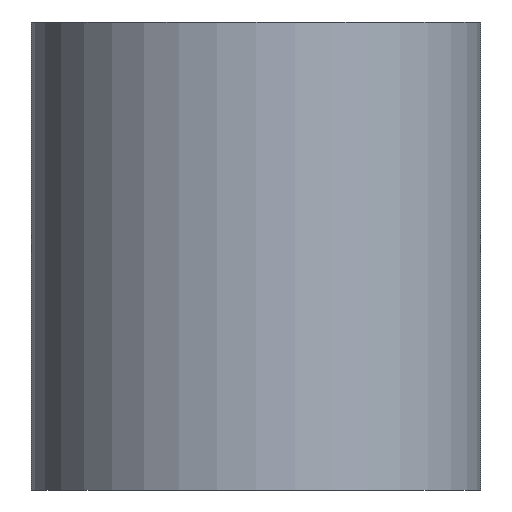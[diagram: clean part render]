
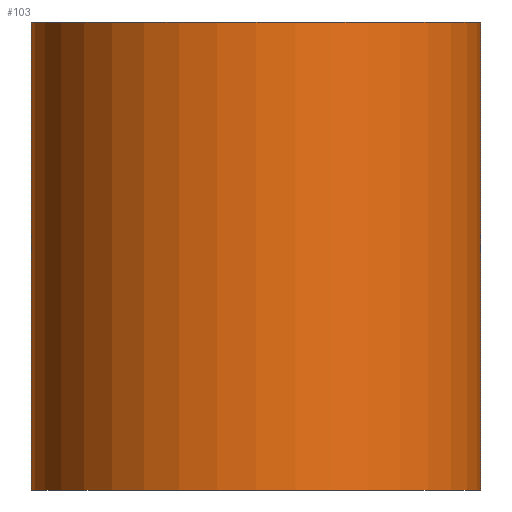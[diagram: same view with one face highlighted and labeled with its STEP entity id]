
A CAD part, left-side view. The second image highlights one B-rep face of the part: STEP entity #103.
In plain terms, the highlighted cylindrical face has radius 12 mm (diameter 24 mm), a partial arc.
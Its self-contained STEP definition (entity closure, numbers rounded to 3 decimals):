
#103=ADVANCED_FACE('',(#113),#109,.T.);
#109=CYLINDRICAL_SURFACE('',#188,12.);
#113=FACE_OUTER_BOUND('',#117,.T.);
#117=EDGE_LOOP('',(#133,#134,#135,#136));
#125=CIRCLE('',#186,12.);
#126=CIRCLE('',#187,12.);
#133=ORIENTED_EDGE('',*,*,#165,.T.);
#134=ORIENTED_EDGE('',*,*,#166,.F.);
#135=ORIENTED_EDGE('',*,*,#167,.F.);
#136=ORIENTED_EDGE('',*,*,#168,.T.);
#157=VERTEX_POINT('',#236);
#158=VERTEX_POINT('',#237);
#159=VERTEX_POINT('',#239);
#160=VERTEX_POINT('',#241);
#165=EDGE_CURVE('',#157,#158,#177,.T.);
#166=EDGE_CURVE('',#159,#158,#125,.T.);
#167=EDGE_CURVE('',#160,#159,#178,.T.);
#168=EDGE_CURVE('',#160,#157,#126,.T.);
#177=LINE('',#235,#181);
#178=LINE('',#240,#182);
#181=VECTOR('',#202,1.);
#182=VECTOR('',#205,1.);
#186=AXIS2_PLACEMENT_3D('',#238,#203,#204);
#187=AXIS2_PLACEMENT_3D('',#242,#206,#207);
#188=AXIS2_PLACEMENT_3D('',#243,#208,#209);
#202=DIRECTION('',(0.,0.,1.));
#203=DIRECTION('',(0.,0.,1.));
#204=DIRECTION('',(1.,0.,0.));
#205=DIRECTION('',(0.,0.,1.));
#206=DIRECTION('',(0.,0.,1.));
#207=DIRECTION('',(1.,0.,0.));
#208=DIRECTION('',(0.,0.,1.));
#209=DIRECTION('',(-1.,0.,0.));
#235=CARTESIAN_POINT('',(0.,-12.,0.));
#236=CARTESIAN_POINT('',(0.,-12.,0.));
#237=CARTESIAN_POINT('',(0.,-12.,25.));
#238=CARTESIAN_POINT('',(0.,0.,25.));
#239=CARTESIAN_POINT('',(0.,12.,25.));
#240=CARTESIAN_POINT('',(0.,12.,0.));
#241=CARTESIAN_POINT('',(0.,12.,0.));
#242=CARTESIAN_POINT('',(0.,0.,0.));
#243=CARTESIAN_POINT('',(0.,0.,0.));
